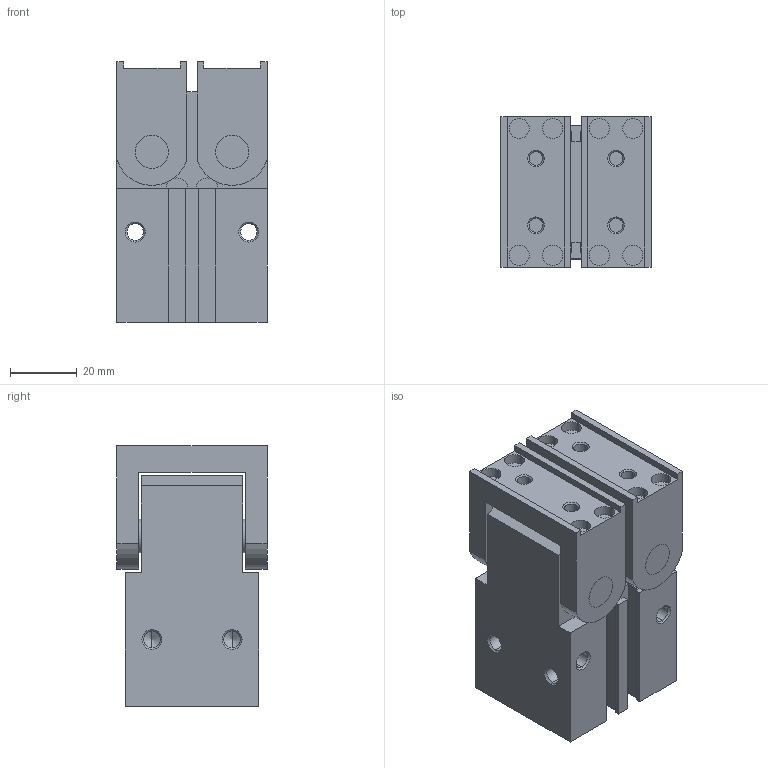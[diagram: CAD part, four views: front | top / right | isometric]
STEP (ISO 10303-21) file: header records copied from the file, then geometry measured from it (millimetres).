
FILE_DESCRIPTION (( 'STEP AP203' ), '1' );
FILE_NAME ('CHW2-25D.STEP', '2020-04-03T10:14:54', ( '' ), ( '' ), 'SwSTEP 2.0', 'SolidWorks 2019', '' );
FILE_SCHEMA (( 'CONFIG_CONTROL_DESIGN' ));
Length unit declared in the file: millimetre
Products named in the file (1): CHW2-25D
Bounding box: 45 x 45 x 78 mm (x, y, z)
Volume: 127135.3 mm3; surface area: 32572.6 mm2
Topology: 3 solids, 3 shells, 225 faces, 542 edges, 334 vertices
Faces by surface type: plane 97, cylinder 80, cone 48
Entity records: 6549 total; most frequent: DIRECTION 1178, CARTESIAN_POINT 1090, ORIENTED_EDGE 1060, EDGE_CURVE 530, AXIS2_PLACEMENT_3D 422, VERTEX_POINT 334, VECTOR 334, LINE 334
